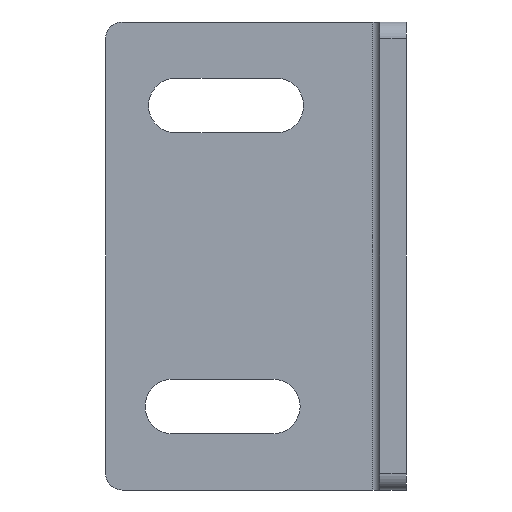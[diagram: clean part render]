
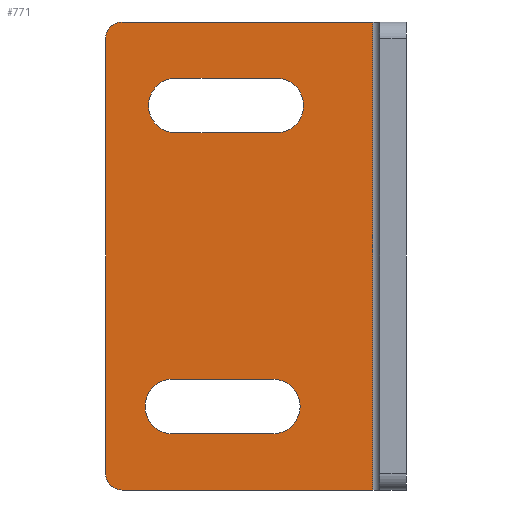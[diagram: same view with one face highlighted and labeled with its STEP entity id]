
A CAD part, left-side view. The second image highlights one B-rep face of the part: STEP entity #771.
In plain terms, the highlighted planar face has unit normal (-1, 0, 0).
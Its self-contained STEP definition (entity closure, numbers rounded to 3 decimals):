
#11 = DIRECTION ( 'NONE',  ( 0., -1., 0. ) ) ;
#24 = CARTESIAN_POINT ( 'NONE',  ( 16., 5., 35. ) ) ;
#29 = CARTESIAN_POINT ( 'NONE',  ( 16., 34.477, 22.5 ) ) ;
#40 = VECTOR ( 'NONE', #625, 1000. ) ;
#47 = CARTESIAN_POINT ( 'NONE',  ( 16., 42.5, -35. ) ) ;
#57 = VERTEX_POINT ( 'NONE', #76 ) ;
#65 = VERTEX_POINT ( 'NONE', #413 ) ;
#66 = VECTOR ( 'NONE', #11, 1000. ) ;
#73 = CARTESIAN_POINT ( 'NONE',  ( 16., 35., -26.6 ) ) ;
#76 = CARTESIAN_POINT ( 'NONE',  ( 16., 5., 35. ) ) ;
#77 = DIRECTION ( 'NONE',  ( 0., 0., 1. ) ) ;
#87 = VERTEX_POINT ( 'NONE', #421 ) ;
#93 = LINE ( 'NONE', #904, #40 ) ;
#94 = LINE ( 'NONE', #24, #386 ) ;
#96 = EDGE_CURVE ( 'NONE', #57, #87, #94, .T. ) ;
#102 = FACE_OUTER_BOUND ( 'NONE', #447, .T. ) ;
#110 = EDGE_CURVE ( 'NONE', #972, #514, #995, .T. ) ;
#115 = FACE_BOUND ( 'NONE', #735, .T. ) ;
#123 = CARTESIAN_POINT ( 'NONE',  ( 16., 42.5, 32.5 ) ) ;
#144 = VERTEX_POINT ( 'NONE', #887 ) ;
#167 = CARTESIAN_POINT ( 'NONE',  ( 16., 19.477, 18.4 ) ) ;
#171 = CARTESIAN_POINT ( 'NONE',  ( 16., 20., -26.6 ) ) ;
#181 = ORIENTED_EDGE ( 'NONE', *, *, #809, .F. ) ;
#188 = VERTEX_POINT ( 'NONE', #171 ) ;
#201 = ORIENTED_EDGE ( 'NONE', *, *, #110, .F. ) ;
#205 = DIRECTION ( 'NONE',  ( -1., 0., 0. ) ) ;
#208 = CARTESIAN_POINT ( 'NONE',  ( 16., 35., -26.6 ) ) ;
#216 = ORIENTED_EDGE ( 'NONE', *, *, #96, .F. ) ;
#221 = VECTOR ( 'NONE', #454, 1000. ) ;
#247 = CARTESIAN_POINT ( 'NONE',  ( 16., 20., -22.5 ) ) ;
#257 = ORIENTED_EDGE ( 'NONE', *, *, #1038, .F. ) ;
#264 = VECTOR ( 'NONE', #77, 1000. ) ;
#273 = DIRECTION ( 'NONE',  ( -1., 0., 0. ) ) ;
#274 = CARTESIAN_POINT ( 'NONE',  ( 16., 20., -22.5 ) ) ;
#289 = DIRECTION ( 'NONE',  ( 0., -1., 0. ) ) ;
#293 = DIRECTION ( 'NONE',  ( -1., 0., 0. ) ) ;
#310 = CARTESIAN_POINT ( 'NONE',  ( 16., 19.477, 22.5 ) ) ;
#315 = EDGE_CURVE ( 'NONE', #950, #57, #857, .T. ) ;
#321 = DIRECTION ( 'NONE',  ( 0., -1., 0. ) ) ;
#334 = AXIS2_PLACEMENT_3D ( 'NONE', #994, #460, #697 ) ;
#337 = DIRECTION ( 'NONE',  ( 0., -1., 0. ) ) ;
#340 = CIRCLE ( 'NONE', #645, 4.1 ) ;
#351 = AXIS2_PLACEMENT_3D ( 'NONE', #274, #983, #1160 ) ;
#352 = ORIENTED_EDGE ( 'NONE', *, *, #990, .F. ) ;
#374 = CARTESIAN_POINT ( 'NONE',  ( 16., 45., -32.5 ) ) ;
#375 = FACE_BOUND ( 'NONE', #1132, .T. ) ;
#386 = VECTOR ( 'NONE', #741, 1000. ) ;
#389 = VECTOR ( 'NONE', #699, 1000. ) ;
#393 = ORIENTED_EDGE ( 'NONE', *, *, #716, .T. ) ;
#413 = CARTESIAN_POINT ( 'NONE',  ( 16., 45., 32.5 ) ) ;
#421 = CARTESIAN_POINT ( 'NONE',  ( 16., 5., -35. ) ) ;
#429 = ORIENTED_EDGE ( 'NONE', *, *, #604, .F. ) ;
#440 = LINE ( 'NONE', #1158, #389 ) ;
#447 = EDGE_LOOP ( 'NONE', ( #649, #393, #352, #807, #257, #216 ) ) ;
#452 = CIRCLE ( 'NONE', #351, 4.1 ) ;
#454 = DIRECTION ( 'NONE',  ( 0., 1., 0. ) ) ;
#460 = DIRECTION ( 'NONE',  ( -1., 0., 0. ) ) ;
#475 = LINE ( 'NONE', #208, #66 ) ;
#485 = VECTOR ( 'NONE', #1085, 1000. ) ;
#496 = AXIS2_PLACEMENT_3D ( 'NONE', #123, #205, #289 ) ;
#514 = VERTEX_POINT ( 'NONE', #167 ) ;
#515 = EDGE_CURVE ( 'NONE', #1118, #144, #440, .T. ) ;
#525 = CIRCLE ( 'NONE', #664, 4.1 ) ;
#526 = AXIS2_PLACEMENT_3D ( 'NONE', #783, #701, #535 ) ;
#535 = DIRECTION ( 'NONE',  ( 0., -1., 0. ) ) ;
#548 = AXIS2_PLACEMENT_3D ( 'NONE', #310, #665, #658 ) ;
#553 = CARTESIAN_POINT ( 'NONE',  ( 16., 34.477, 26.6 ) ) ;
#558 = DIRECTION ( 'NONE',  ( -1., 0., 0. ) ) ;
#566 = EDGE_CURVE ( 'NONE', #514, #726, #842, .T. ) ;
#582 = VERTEX_POINT ( 'NONE', #1168 ) ;
#604 = EDGE_CURVE ( 'NONE', #902, #1118, #452, .T. ) ;
#613 = CARTESIAN_POINT ( 'NONE',  ( 16., 42.5, 35. ) ) ;
#625 = DIRECTION ( 'NONE',  ( 0., 1., 0. ) ) ;
#628 = ORIENTED_EDGE ( 'NONE', *, *, #515, .F. ) ;
#643 = ORIENTED_EDGE ( 'NONE', *, *, #700, .F. ) ;
#645 = AXIS2_PLACEMENT_3D ( 'NONE', #29, #558, #1106 ) ;
#648 = EDGE_CURVE ( 'NONE', #582, #1092, #93, .T. ) ;
#649 = ORIENTED_EDGE ( 'NONE', *, *, #315, .F. ) ;
#653 = DIRECTION ( 'NONE',  ( 0., 0., 1. ) ) ;
#658 = DIRECTION ( 'NONE',  ( 0., -1., 0. ) ) ;
#664 = AXIS2_PLACEMENT_3D ( 'NONE', #247, #881, #337 ) ;
#665 = DIRECTION ( 'NONE',  ( -1., 0., 0. ) ) ;
#670 = ORIENTED_EDGE ( 'NONE', *, *, #945, .F. ) ;
#697 = DIRECTION ( 'NONE',  ( 0., -1., 0. ) ) ;
#699 = DIRECTION ( 'NONE',  ( 0., 1., 0. ) ) ;
#700 = EDGE_CURVE ( 'NONE', #1092, #972, #340, .T. ) ;
#701 = DIRECTION ( 'NONE',  ( -1., 0., 0. ) ) ;
#709 = LINE ( 'NONE', #974, #264 ) ;
#716 = EDGE_CURVE ( 'NONE', #950, #65, #1003, .T. ) ;
#724 = CARTESIAN_POINT ( 'NONE',  ( 16., 0., 0. ) ) ;
#726 = VERTEX_POINT ( 'NONE', #917 ) ;
#735 = EDGE_LOOP ( 'NONE', ( #789, #201, #643, #738, #181 ) ) ;
#738 = ORIENTED_EDGE ( 'NONE', *, *, #648, .F. ) ;
#741 = DIRECTION ( 'NONE',  ( 0., 0., -1. ) ) ;
#765 = ORIENTED_EDGE ( 'NONE', *, *, #1015, .F. ) ;
#767 = CIRCLE ( 'NONE', #883, 2.5 ) ;
#771 = ADVANCED_FACE ( 'NONE', ( #375, #115, #102 ), #1014, .T. ) ;
#773 = CARTESIAN_POINT ( 'NONE',  ( 16., 4., 35. ) ) ;
#780 = CARTESIAN_POINT ( 'NONE',  ( 16., 15.9, -22.5 ) ) ;
#783 = CARTESIAN_POINT ( 'NONE',  ( 16., 35., -22.5 ) ) ;
#789 = ORIENTED_EDGE ( 'NONE', *, *, #566, .F. ) ;
#807 = ORIENTED_EDGE ( 'NONE', *, *, #1046, .T. ) ;
#809 = EDGE_CURVE ( 'NONE', #726, #582, #1053, .T. ) ;
#813 = VERTEX_POINT ( 'NONE', #47 ) ;
#842 = CIRCLE ( 'NONE', #334, 4.1 ) ;
#857 = LINE ( 'NONE', #773, #1049 ) ;
#881 = DIRECTION ( 'NONE',  ( -1., 0., 0. ) ) ;
#883 = AXIS2_PLACEMENT_3D ( 'NONE', #1159, #273, #1167 ) ;
#887 = CARTESIAN_POINT ( 'NONE',  ( 16., 35., -18.4 ) ) ;
#891 = CARTESIAN_POINT ( 'NONE',  ( 16., 34.477, 18.4 ) ) ;
#897 = CARTESIAN_POINT ( 'NONE',  ( 16., 45., -35. ) ) ;
#902 = VERTEX_POINT ( 'NONE', #780 ) ;
#904 = CARTESIAN_POINT ( 'NONE',  ( 16., 19.477, 26.6 ) ) ;
#917 = CARTESIAN_POINT ( 'NONE',  ( 16., 15.377, 22.5 ) ) ;
#932 = VERTEX_POINT ( 'NONE', #73 ) ;
#945 = EDGE_CURVE ( 'NONE', #188, #902, #525, .T. ) ;
#950 = VERTEX_POINT ( 'NONE', #613 ) ;
#972 = VERTEX_POINT ( 'NONE', #891 ) ;
#974 = CARTESIAN_POINT ( 'NONE',  ( 16., 45., 35. ) ) ;
#976 = CIRCLE ( 'NONE', #526, 4.1 ) ;
#980 = ORIENTED_EDGE ( 'NONE', *, *, #1105, .F. ) ;
#983 = DIRECTION ( 'NONE',  ( -1., 0., 0. ) ) ;
#990 = EDGE_CURVE ( 'NONE', #1101, #65, #709, .T. ) ;
#991 = LINE ( 'NONE', #897, #221 ) ;
#994 = CARTESIAN_POINT ( 'NONE',  ( 16., 19.477, 22.5 ) ) ;
#995 = LINE ( 'NONE', #1104, #485 ) ;
#1003 = CIRCLE ( 'NONE', #496, 2.5 ) ;
#1014 = PLANE ( 'NONE',  #1109 ) ;
#1015 = EDGE_CURVE ( 'NONE', #144, #932, #976, .T. ) ;
#1038 = EDGE_CURVE ( 'NONE', #87, #813, #991, .T. ) ;
#1046 = EDGE_CURVE ( 'NONE', #1101, #813, #767, .T. ) ;
#1049 = VECTOR ( 'NONE', #321, 1000. ) ;
#1053 = CIRCLE ( 'NONE', #548, 4.1 ) ;
#1085 = DIRECTION ( 'NONE',  ( 0., -1., 0. ) ) ;
#1092 = VERTEX_POINT ( 'NONE', #553 ) ;
#1099 = CARTESIAN_POINT ( 'NONE',  ( 16., 20., -18.4 ) ) ;
#1101 = VERTEX_POINT ( 'NONE', #374 ) ;
#1104 = CARTESIAN_POINT ( 'NONE',  ( 16., 34.477, 18.4 ) ) ;
#1105 = EDGE_CURVE ( 'NONE', #932, #188, #475, .T. ) ;
#1106 = DIRECTION ( 'NONE',  ( 0., -1., 0. ) ) ;
#1109 = AXIS2_PLACEMENT_3D ( 'NONE', #724, #293, #653 ) ;
#1118 = VERTEX_POINT ( 'NONE', #1099 ) ;
#1132 = EDGE_LOOP ( 'NONE', ( #670, #980, #765, #628, #429 ) ) ;
#1158 = CARTESIAN_POINT ( 'NONE',  ( 16., 20., -18.4 ) ) ;
#1159 = CARTESIAN_POINT ( 'NONE',  ( 16., 42.5, -32.5 ) ) ;
#1160 = DIRECTION ( 'NONE',  ( 0., -1., 0. ) ) ;
#1167 = DIRECTION ( 'NONE',  ( 0., -1., 0. ) ) ;
#1168 = CARTESIAN_POINT ( 'NONE',  ( 16., 19.477, 26.6 ) ) ;
